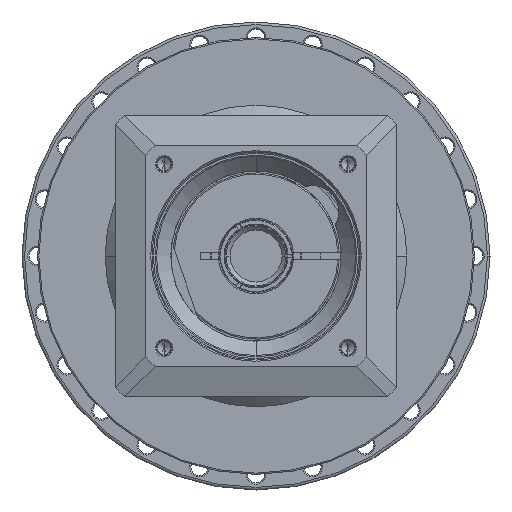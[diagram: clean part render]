
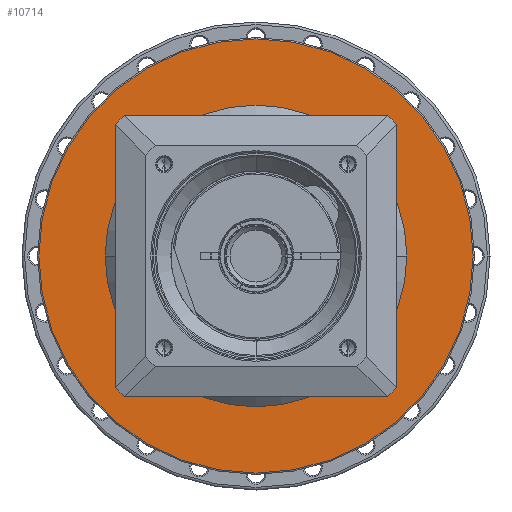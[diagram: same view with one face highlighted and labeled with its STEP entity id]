
A CAD part, left-side view. The second image highlights one B-rep face of the part: STEP entity #10714.
In plain terms, the highlighted planar face has unit normal (-1, 0, 0) as drawn and (1, 0, 0) by its records, which use the part's own axes.
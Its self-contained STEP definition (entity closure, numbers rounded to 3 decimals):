
#10241=CARTESIAN_POINT('',(-4.,0.,0.));
#10242=DIRECTION('',(-1.,0.,0.));
#10243=DIRECTION('',(0.,1.,0.));
#10244=AXIS2_PLACEMENT_3D('',#10241,#10242,#10243);
#10246=CARTESIAN_POINT('',(-4.,0.,
0.));
#10247=DIRECTION('',(-1.,0.,0.));
#10248=DIRECTION('',(0.,-1.,0.));
#10249=AXIS2_PLACEMENT_3D('',#10246,#10247,#10248);
#10251=CARTESIAN_POINT('',(-4.,0.,0.));
#10252=DIRECTION('',(-1.,0.,0.));
#10253=DIRECTION('',(0.,-1.,0.));
#10254=AXIS2_PLACEMENT_3D('',#10251,#10252,#10253);
#10256=CARTESIAN_POINT('',(-4.,0.,0.));
#10257=DIRECTION('',(-1.,0.,0.));
#10258=DIRECTION('',(0.,1.,0.));
#10259=AXIS2_PLACEMENT_3D('',#10256,#10257,#10258);
#10285=CARTESIAN_POINT('',(-4.,-83.5,0.));
#10286=CARTESIAN_POINT('',(-4.,83.5,0.));
#10287=VERTEX_POINT('',#10285);
#10288=VERTEX_POINT('',#10286);
#10333=CARTESIAN_POINT('',(-4.,58.,0.));
#10334=CARTESIAN_POINT('',(-4.,-58.,0.));
#10335=VERTEX_POINT('',#10333);
#10336=VERTEX_POINT('',#10334);
#10699=CARTESIAN_POINT('',(-4.,0.,0.));
#10700=DIRECTION('',(1.,0.,0.));
#10701=DIRECTION('',(0.,-1.,0.));
#10702=AXIS2_PLACEMENT_3D('',#10699,#10700,#10701);
#10703=PLANE('',#10702);
#10704=ORIENTED_EDGE('',*,*,#10640,.T.);
#10705=ORIENTED_EDGE('',*,*,#10655,.T.);
#10706=EDGE_LOOP('',(#10704,#10705));
#10707=FACE_OUTER_BOUND('',#10706,.F.);
#10709=ORIENTED_EDGE('',*,*,#10708,.F.);
#10711=ORIENTED_EDGE('',*,*,#10710,.F.);
#10712=EDGE_LOOP('',(#10709,#10711));
#10713=FACE_BOUND('',#10712,.F.);
#10714=ADVANCED_FACE('',(#10707,#10713),#10703,.T.);
#10245=CIRCLE('',#10244,58.);
#10250=CIRCLE('',#10249,58.);
#10255=CIRCLE('',#10254,83.5);
#10260=CIRCLE('',#10259,83.5);
#10640=EDGE_CURVE('',#10287,#10288,#10255,.T.);
#10655=EDGE_CURVE('',#10288,#10287,#10260,.T.);
#10708=EDGE_CURVE('',#10335,#10336,#10245,.T.);
#10710=EDGE_CURVE('',#10336,#10335,#10250,.T.);
